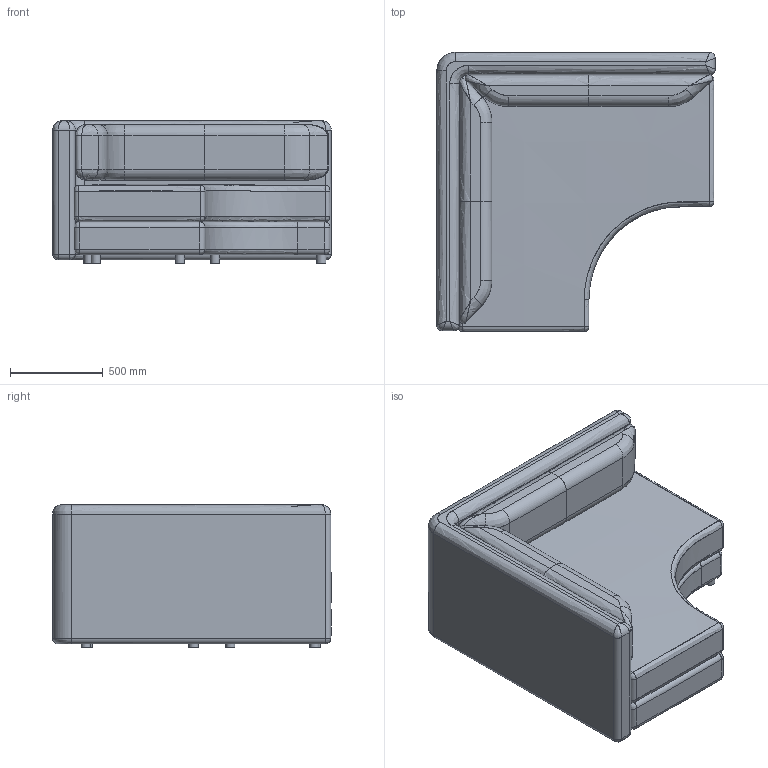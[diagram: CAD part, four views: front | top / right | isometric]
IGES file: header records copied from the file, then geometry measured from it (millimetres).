
Global section: file name: C:\Users\market02\Desktop\RYAN\VIRGULE\FVIRGAN150_CANAPE ANGLE_CORNER SOFA_VIRGULE\FVIRGAN150_CANAPE ANGLE_CORNER SOFA_VIRGULE.igs; native system: Rhinoceros ( Dec 14 2021 ); preprocessor: Trout Lake IGES 012 Dec 14 2021; date: 220919.075821; units: millimetre
Bounding box: 1500 x 1503.28 x 767.54 mm (x, y, z)
Surface area: 14862836.8 mm2 (no closed solid volume)
Topology: 0 solids, 0 shells, 200 faces, 1242 edges, 1224 vertices
Faces by surface type: bspline 200
